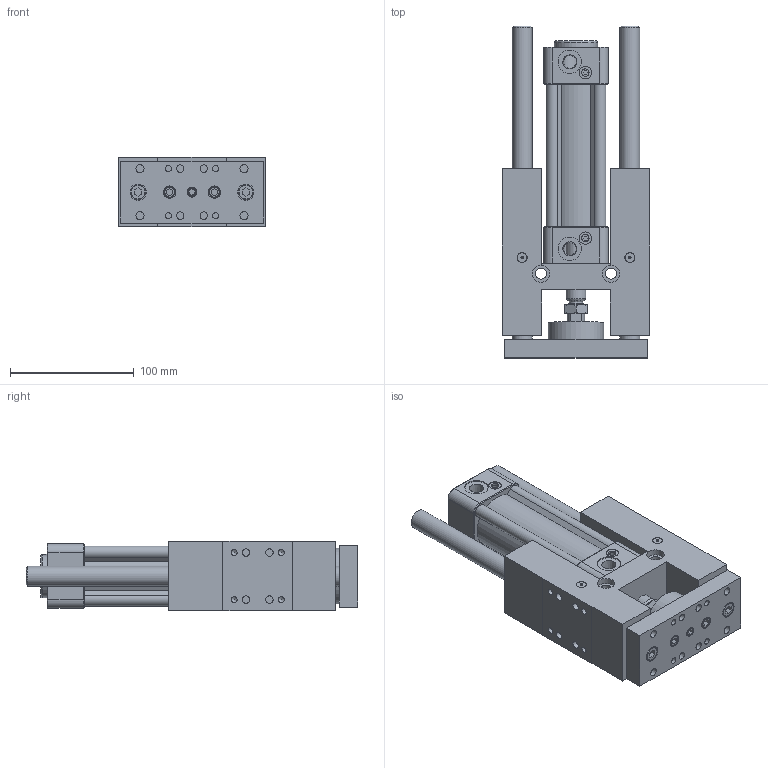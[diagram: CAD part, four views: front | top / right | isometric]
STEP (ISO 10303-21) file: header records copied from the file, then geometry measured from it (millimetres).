
FILE_DESCRIPTION((''),'2;1');
FILE_NAME('I:\3D電子目錄\氣缸\GHB(U)\GHB(U)\GHB(U)40\GHB(U)40x75.stp','2007-10-19T14:49:31',('Administrator'),(''),'Autodesk Inventor 11','Autodesk Inventor 11','');
FILE_SCHEMA(('AUTOMOTIVE_DESIGN { 1 0 10303 214 1 1 1 1 }'));
Length unit declared in the file: millimetre
Products named in the file (1): GHB(U)40
Bounding box: 119 x 268 x 56.2 mm (x, y, z)
Volume: 934047.2 mm3; surface area: 200421.9 mm2
Topology: 17 solids, 17 shells, 779 faces, 1702 edges, 1054 vertices
Faces by surface type: plane 296, bspline 215, cylinder 170, cone 89, torus 9
Full cylindrical faces by diameter (mm): 2.6 x2, 4.9 x2, 4.917 x4, 5 x4, 5.5 x10, 6 x12, 6.5 x8, 6.8 x1, 7.8 x6, 8 x5, 9 x6, 9.5 x1, 9.9 x1, 10 x5, 10.2 x8, 12 x3, 13 x2, 16 x4, 18 x1, 19 x2, 21 x2, 35 x1, 40 x1, 45 x1
Entity records: 22134 total; most frequent: CARTESIAN_POINT 6597, DIRECTION 3108, ORIENTED_EDGE 2968, EDGE_CURVE 1484, AXIS2_PLACEMENT_3D 1218, EDGE_LOOP 1096, VERTEX_POINT 1022, FACE_OUTER_BOUND 779
